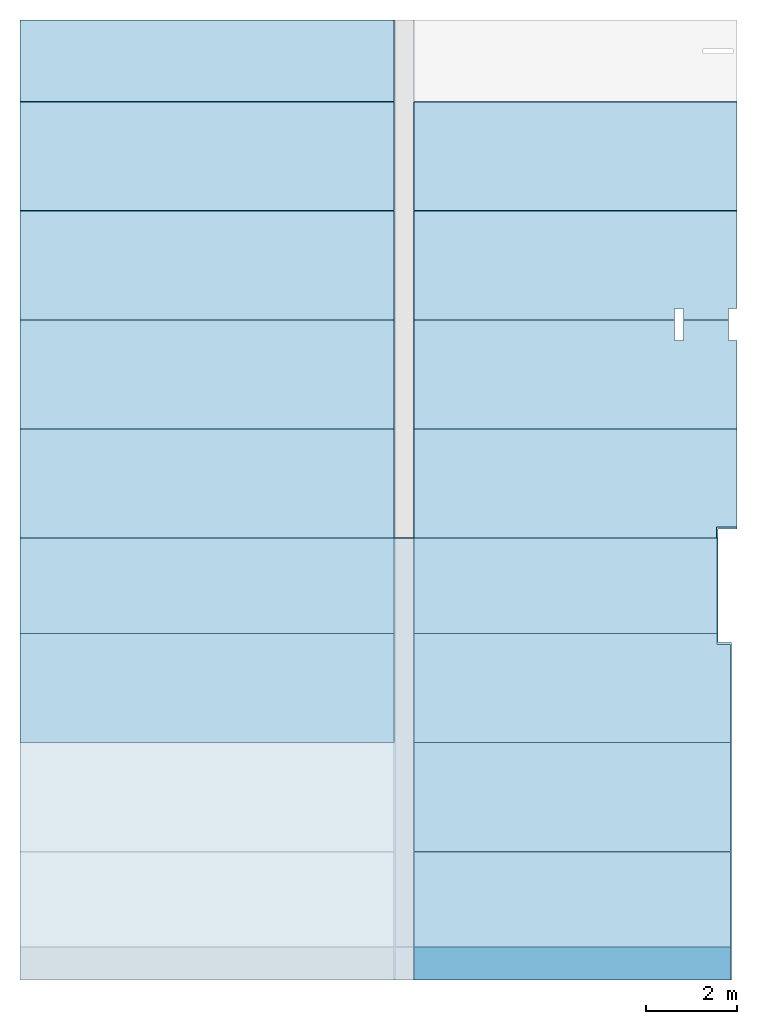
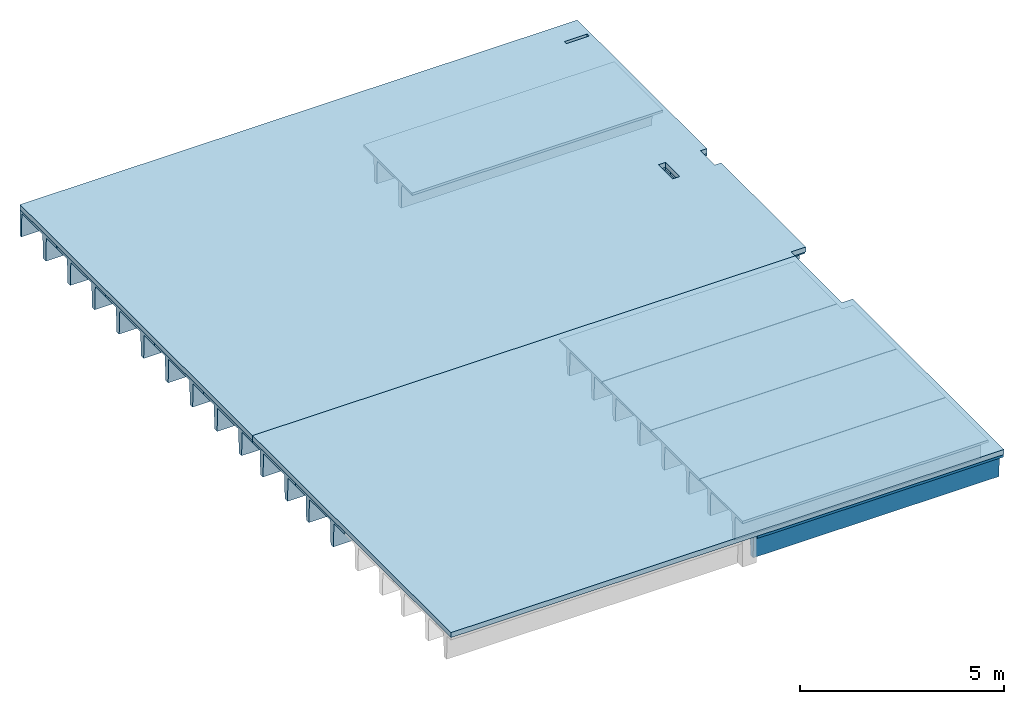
# One storey, part 3 of 4: 19 slabs.
"""IFC2X3 building model written with IfcOpenShell, lengths in millimetres."""

import ifcopenshell
import ifcopenshell.guid

model = None  # the IFC model being written
_history = None  # IfcOwnerHistory: only IFC2X3 demands one
_inside = {}  # id of a spatial element -> (the spatial element, [elements in it])
_under = {}  # id of a project, library or spatial element -> (it, [spatial elements below it])
_declared = {}  # id of a project -> (the project, [libraries it declares])
_typed = {}  # id of a type object -> (the type object, [elements of that type])
_made_of = {}  # id of a material, layer set ... -> (it, [elements and type objects made of it])


def new_model(schema):
    """Start an empty IFC model of exactly this schema.

    Asked for "IFC4X3", IfcOpenShell would pick the latest addendum, in which some entities
    have other attributes; the version numbers below select the first issue.
    IFC2X3 requires an IfcOwnerHistory on every rooted entity: one is made here for all.
    """
    global model, _history
    if schema == "IFC4X3":
        model = ifcopenshell.file(schema_version=(4, 3, 0, 0))
    else:
        model = ifcopenshell.file(schema=schema)
    _inside.clear()
    _under.clear()
    _declared.clear()
    _typed.clear()
    _made_of.clear()
    _history = None
    if model.schema == "IFC2X3":
        org = make("IfcOrganization", Name="unknown")
        user = make(
            "IfcPersonAndOrganization",
            ThePerson=make("IfcPerson", FamilyName="unknown"),
            TheOrganization=org,
        )
        app = make(
            "IfcApplication",
            ApplicationDeveloper=org,
            Version="unknown",
            ApplicationFullName="unknown",
            ApplicationIdentifier="unknown",
        )
        _history = make(
            "IfcOwnerHistory",
            OwningUser=user,
            OwningApplication=app,
            ChangeAction="ADDED",
            CreationDate=0,
        )
    return model


def make(cls, **values):
    """One entity of the class cls with the attributes given. An attribute that is None is left unset."""
    return model.create_entity(
        cls, **{name: value for name, value in values.items() if value is not None}
    )


def entity(cls, *values):
    """Any entity or typed value of the class cls, its attributes in the order of the schema. None: left unset."""
    e = model.create_entity(cls)
    for i, value in enumerate(values):
        if value is not None:
            e[i] = value
    return e


def rooted(cls, **values):
    """An entity with a GlobalId (a new one), such as an element, a storey or a relation."""
    return make(cls, GlobalId=ifcopenshell.guid.new(), OwnerHistory=_history, **values)


def si_unit(unit_type, name, prefix=None):
    """IfcSIUnit, for example si_unit("LENGTHUNIT", "METRE", prefix="MILLI")."""
    return make("IfcSIUnit", UnitType=unit_type, Prefix=prefix, Name=name)


def converted_unit(unit_type, name, factor, base, dimensions=None, offset=None):
    """IfcConversionBasedUnit, such as the inch: factor (a typed value) times the base unit."""
    return make(
        "IfcConversionBasedUnit"
        if offset is None
        else "IfcConversionBasedUnitWithOffset",
        ConversionOffset=offset,
        Dimensions=None
        if dimensions is None
        else entity("IfcDimensionalExponents", *dimensions),
        UnitType=unit_type,
        Name=name,
        ConversionFactor=make(
            "IfcMeasureWithUnit", ValueComponent=factor, UnitComponent=base
        ),
    )


def derived_unit(unit_type, elements):
    """IfcDerivedUnit: a product of units, each with its exponent."""
    return make(
        "IfcDerivedUnit",
        Elements=[
            make("IfcDerivedUnitElement", Unit=unit, Exponent=power)
            for unit, power in elements
        ],
        UnitType=unit_type,
    )


def assignment(units):
    """IfcUnitAssignment: the units of a project."""
    return None if units is None else make("IfcUnitAssignment", Units=units)


def point(xyz):
    """IfcCartesianPoint."""
    return None if xyz is None else make("IfcCartesianPoint", Coordinates=xyz)


def direction(xyz):
    """IfcDirection."""
    return None if xyz is None else make("IfcDirection", DirectionRatios=xyz)


def frame(location, z_axis=None, x_axis=None):
    """IfcAxis2Placement3D, a coordinate frame: its origin and axes. An axis left out is left unset."""
    return make(
        "IfcAxis2Placement3D",
        Location=point(location),
        Axis=direction(z_axis),
        RefDirection=direction(x_axis),
    )


def origin_with_axes():
    """The frame at (0, 0, 0) with the z axis (0, 0, 1) and the x axis (1, 0, 0) written out."""
    return frame((0.0, 0.0, 0.0), z_axis=(0.0, 0.0, 1.0), x_axis=(1.0, 0.0, 0.0))


def place(relative_to, where):
    """IfcLocalPlacement: puts the frame where relative to a parent placement (None: the world)."""
    return make(
        "IfcLocalPlacement", PlacementRelTo=relative_to, RelativePlacement=where
    )


def context(
    kind, dimensions, precision=None, world=None, true_north=None, identifier=None
):
    """IfcGeometricRepresentationContext, for example the 3D "Model" context."""
    return make(
        "IfcGeometricRepresentationContext",
        ContextIdentifier=identifier,
        ContextType=kind,
        CoordinateSpaceDimension=dimensions,
        Precision=precision,
        WorldCoordinateSystem=world,
        TrueNorth=true_north,
    )


def subcontext(parent, identifier, kind, view, scale=None):
    """IfcGeometricRepresentationSubContext, for example "Body" below "Model"."""
    return make(
        "IfcGeometricRepresentationSubContext",
        ContextIdentifier=identifier,
        ContextType=kind,
        ParentContext=parent,
        TargetScale=scale,
        TargetView=view,
    )


def project(units=None, contexts=None):
    """IfcProject with its units and contexts."""
    return rooted(
        "IfcProject",
        Name="project",
        RepresentationContexts=contexts,
        UnitsInContext=assignment(units),
    )


def spatial(cls, under=None, at=None, **own):
    """A site, building, storey or space (cls), placed at a placement, below another one or the project."""
    s = rooted(cls, ObjectPlacement=at, **own)
    if under is not None:
        _under.setdefault(under.id(), (under, []))[1].append(s)
    return s


def faces_of(points, faces, orient=None, outer=None):
    """IfcFace entities. A face is a list of loops; a loop is a list of indices into points, from 0.

    orient and outer hold one flag for each loop. By default every Orientation is true, the
    first loop of a face is its IfcFaceOuterBound and the others are IfcFaceBound.
    """
    made = []
    for i, loops in enumerate(faces):
        bounds = []
        for j, loop in enumerate(loops):
            is_outer = j == 0 if outer is None else outer[i][j]
            bounds.append(
                make(
                    "IfcFaceOuterBound" if is_outer else "IfcFaceBound",
                    Bound=make("IfcPolyLoop", Polygon=[points[k] for k in loop]),
                    Orientation=True if orient is None else orient[i][j],
                )
            )
        made.append(make("IfcFace", Bounds=bounds))
    return made


def faceted_brep(points, faces, orient=None, outer=None, voids=None):
    """IfcFacetedBrep: a solid bounded by flat faces; with voids (closed shells), ...WithVoids."""
    shared = [point(p) for p in points]
    hull = make("IfcClosedShell", CfsFaces=faces_of(shared, faces, orient, outer))
    if voids is None:
        return make("IfcFacetedBrep", Outer=hull)
    return make(
        "IfcFacetedBrepWithVoids",
        Outer=hull,
        Voids=[
            make(cls, CfsFaces=faces_of(shared, fs, o, b)) for cls, fs, o, b in voids
        ],
    )


def shape(context_of_items, identifier, shape_type, items):
    """IfcShapeRepresentation: the items that make up one representation, for example the "Body"."""
    return make(
        "IfcShapeRepresentation",
        ContextOfItems=context_of_items,
        RepresentationIdentifier=identifier,
        RepresentationType=shape_type,
        Items=items,
    )


def material(Name=None, Category=None):
    """IfcMaterial."""
    return make("IfcMaterial", Name=Name, Category=Category)


def made_of(thing, what):
    """Note that an element or type object is made of a material, layer set ...; save() writes the relation."""
    if what is not None:
        _made_of.setdefault(what.id(), (what, []))[1].append(thing)
    return thing


def type_object(cls, material=None, **own):
    """A type object (cls), such as IfcWallType, which elements share."""
    return made_of(rooted(cls, **own), material)


def element(
    cls,
    number,
    at=None,
    inside=None,
    cuts=None,
    type_object=None,
    material=None,
    context=None,
    identifier="Body",
    shape_type=None,
    held_by="IfcProductDefinitionShape",
    body=None,
    shapes=None,
    **own,
):
    """One element of the class cls, such as IfcWall. Its Tag is "e" and its number.

    at: its placement. inside: the storey or other place that contains it. cuts: it is an
    opening in that element (IfcRelVoidsElement). A single representation is given by context,
    identifier, shape_type and body (its items); several are given by shapes. held_by: the class
    of the entity that holds the representations. save() writes the other relations.
    """
    e = rooted(cls, Tag="e%d" % number, ObjectPlacement=at, **own)
    if body is not None:
        shapes = [shape(context, identifier, shape_type, body)]
    if shapes is not None:
        e.Representation = make(held_by, Representations=shapes)
    if inside is not None:
        _inside.setdefault(inside.id(), (inside, []))[1].append(e)
    if cuts is not None:
        rooted(
            "IfcRelVoidsElement", RelatingBuildingElement=cuts, RelatedOpeningElement=e
        )
    if type_object is not None:
        _typed.setdefault(type_object.id(), (type_object, []))[1].append(e)
    return made_of(e, material)


def aggregate(whole, parts):
    """IfcRelAggregates: a whole, such as a stair, and the parts it consists of."""
    return rooted("IfcRelAggregates", RelatingObject=whole, RelatedObjects=parts)


def save(model, path):
    """Write the relations noted so far, then the file.

    IfcRelAggregates (storeys below a building ...), IfcRelContainedInSpatialStructure (elements
    in a storey), IfcRelDefinesByType, IfcRelAssociatesMaterial and IfcRelDeclares: one each for
    every whole, place, type object, material and project.
    """
    for whole, parts in _under.values():
        aggregate(whole, parts)
    for where, things in _inside.values():
        rooted(
            "IfcRelContainedInSpatialStructure",
            RelatedElements=things,
            RelatingStructure=where,
        )
    for kind, things in _typed.values():
        rooted("IfcRelDefinesByType", RelatedObjects=things, RelatingType=kind)
    for what, things in _made_of.values():
        rooted("IfcRelAssociatesMaterial", RelatedObjects=things, RelatingMaterial=what)
    for by, libraries in _declared.values():
        rooted("IfcRelDeclares", RelatingContext=by, RelatedDefinitions=libraries)
    model.write(path)


model = new_model("IFC2X3")

# Units and contexts
model_context = context("Model", 3, precision=0.01, world=frame((0.0, 4.29681676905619e-09, 0.0)), true_north=direction((4.01073788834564e-13, 1.0)))
plan_context = context("Plan", 3, precision=0.01, world=frame((0.0, 4.29681676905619e-09, 0.0)), true_north=direction((4.01073788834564e-13, 1.0)))
body_context = subcontext(model_context, "Body", "Model", "MODEL_VIEW")
ifc_project = project(units=[converted_unit("PLANEANGLEUNIT", "DEGREE", entity("IfcPositiveLengthMeasure", 0.0174532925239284), si_unit("PLANEANGLEUNIT", "RADIAN"), dimensions=[0, 0, 0, 0, 0, 0, 0]), si_unit("AREAUNIT", "SQUARE_METRE"), si_unit("LENGTHUNIT", "METRE", prefix="MILLI"), si_unit("MASSUNIT", "GRAM", prefix="KILO"), si_unit("POWERUNIT", "WATT"), si_unit("PRESSUREUNIT", "PASCAL"), si_unit("FORCEUNIT", "NEWTON", prefix="KILO"), si_unit("ELECTRICVOLTAGEUNIT", "VOLT"), si_unit("ELECTRICCURRENTUNIT", "AMPERE"), si_unit("THERMODYNAMICTEMPERATUREUNIT", "DEGREE_CELSIUS"), si_unit("TIMEUNIT", "SECOND"), si_unit("VOLUMEUNIT", "CUBIC_METRE"), derived_unit("LINEARVELOCITYUNIT", [(si_unit("LENGTHUNIT", "METRE"), 1), (si_unit("TIMEUNIT", "SECOND"), -1)]), derived_unit("VOLUMETRICFLOWRATEUNIT", [(si_unit("VOLUMEUNIT", "CUBIC_METRE"), 1), (si_unit("TIMEUNIT", "SECOND"), -1)]), derived_unit("THERMALTRANSMITTANCEUNIT", [(si_unit("POWERUNIT", "WATT"), 1), (si_unit("THERMODYNAMICTEMPERATUREUNIT", "KELVIN"), -1), (si_unit("AREAUNIT", "SQUARE_METRE"), -1)]), derived_unit("SOUNDPRESSUREUNIT", [(si_unit("PRESSUREUNIT", "PASCAL"), 1)])], contexts=[model_context, plan_context])

# Site, building, storey
site_placement = place(None, frame((0.0, -4.29681676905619e-09, 0.0), z_axis=(0.0, 0.0, 1.0), x_axis=(1.0, 0.0, 0.0)))
site = spatial("IfcSite", under=ifc_project, at=site_placement, Name="Gardermoen", CompositionType="ELEMENT")
building_placement = place(site_placement, frame((0.0, 4.29681676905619e-09, 0.0), z_axis=(0.0, 0.0, 1.0), x_axis=(1.0, 0.0, 0.0)))
building = spatial("IfcBuilding", under=site, at=building_placement, Name="TS", CompositionType="ELEMENT")
storey_placement = place(building_placement, origin_with_axes())
storey = spatial("IfcBuildingStorey", under=building, at=storey_placement, Name="F", CompositionType="ELEMENT", Elevation=0.0)

# Slabs
ifc_material = material(Name="CONCRETE/C45/55")
slab_type_1 = type_object("IfcSlabType", Name="TT800*2394-125-70-1200-0.04-0-0", PredefinedType="NOTDEFINED")
slab_1_placement = place(storey_placement, frame((536180.000234, 444799.995625, 210280.0), z_axis=(0.0, 0.0, 1.0), x_axis=(-0.999999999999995, -9.99999902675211e-08, 0.0)))
element("IfcSlab", 1, at=slab_1_placement, inside=storey, type_object=slab_type_1, material=ifc_material, Name="DT", ObjectType="TT800*2394-125-70-1200-0.04-0-0", PredefinedType="FLOOR", context=body_context, shape_type="Brep", body=[
    faceted_brep([(0.0, -1197.0, 400.0), (0.0, -1197.0, 330.0), (6960.0, -1197.0, 330.0), (6960.0, -1197.0, 400.0), (0.0, -691.700000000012, 330.0), (6960.0, -691.700000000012, 330.0), (0.0, -662.5, -400.0), (6960.0, -662.5, -400.0), (0.0, -537.5, -400.0), (6960.0, -537.5, -400.0), (0.0, -508.299999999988, 330.0), (6960.0, -508.299999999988, 330.0), (0.0, 508.299999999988, 330.0), (6960.0, 508.299999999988, 330.0), (0.0, 537.5, -400.0), (6960.0, 537.5, -400.0), (0.0, 662.5, -400.0), (6960.0, 662.5, -400.0), (0.0, 691.700000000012, 330.0), (6960.0, 691.700000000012, 330.0), (0.0, 1197.0, 330.0), (6960.0, 1197.0, 330.0), (0.0, 1197.0, 400.0), (6960.0, 1197.0, 400.0)], [[[0, 1, 2, 3]], [[1, 4, 5, 2]], [[4, 6, 7, 5]], [[6, 8, 9, 7]], [[8, 10, 11, 9]], [[10, 12, 13, 11]], [[12, 14, 15, 13]], [[14, 16, 17, 15]], [[16, 18, 19, 17]], [[18, 20, 21, 19]], [[20, 22, 23, 21]], [[22, 0, 3, 23]], [[5, 7, 9, 11, 13, 15, 17, 19, 21, 23, 3, 2]], [[22, 20, 18, 16, 14, 12, 10, 8, 6, 4, 1, 0]]]),
])
slab_2_placement = place(storey_placement, frame((536180.000234, 447199.995625, 210280.0), z_axis=(0.0, 0.0, 1.0), x_axis=(-0.999999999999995, -9.99999902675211e-08, 0.0)))
element("IfcSlab", 2, at=slab_2_placement, inside=storey, type_object=slab_type_1, material=ifc_material, Name="DT", ObjectType="TT800*2394-125-70-1200-0.04-0-0", PredefinedType="FLOOR", context=body_context, shape_type="Brep", body=[
    faceted_brep([(0.0, -956.998676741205, 400.0), (0.0, -956.998676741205, 330.0), (299.993408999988, -956.998676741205, 330.0), (299.993408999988, -956.998676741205, 400.0), (299.993408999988, -1197.0, 400.0), (299.993408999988, -1197.0, 330.0), (0.0, -691.700000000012, 330.0), (0.0, -662.5, -400.0), (6960.0, -662.5, -400.0), (6960.0, -691.700000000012, 330.0), (0.0, -537.5, -400.0), (6960.0, -537.5, -400.0), (0.0, -508.299999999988, 330.0), (6960.0, -508.299999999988, 330.0), (0.0, 508.299999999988, 330.0), (6960.0, 508.299999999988, 330.0), (0.0, 537.5, -400.0), (6960.0, 537.5, -400.0), (0.0, 662.5, -400.0), (6960.0, 662.5, -400.0), (0.0, 691.700000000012, 330.0), (6960.0, 691.700000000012, 330.0), (0.0, 1197.0, 330.0), (6960.0, 1197.0, 330.0), (0.0, 1197.0, 400.0), (6960.0, 1197.0, 400.0), (6960.0, -1197.0, 400.0), (6960.0, -1197.0, 330.0)], [[[0, 1, 2, 3]], [[4, 3, 2, 5]], [[6, 7, 8, 9]], [[7, 10, 11, 8]], [[10, 12, 13, 11]], [[12, 14, 15, 13]], [[14, 16, 17, 15]], [[16, 18, 19, 17]], [[18, 20, 21, 19]], [[20, 22, 23, 21]], [[22, 24, 25, 23]], [[9, 8, 11, 13, 15, 17, 19, 21, 23, 25, 26, 27]], [[27, 26, 4, 5]], [[1, 6, 9, 27, 5, 2]], [[24, 22, 20, 18, 16, 14, 12, 10, 7, 6, 1, 0]], [[26, 25, 24, 0, 3, 4]]]),
])
slab_3_placement = place(storey_placement, frame((520219.999766, 461299.995625, 210280.0), z_axis=(0.0, 0.0, 1.0), x_axis=(1.0, 0.0, 0.0)))
element("IfcSlab", 3, at=slab_3_placement, inside=storey, type_object=slab_type_1, Name="DT", ObjectType="TT800*2394-125-70-1200-0.04-0-0", PredefinedType="FLOOR", context=body_context, shape_type="Brep", body=[
    faceted_brep([(324.987734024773, -1197.0, 330.0), (324.987734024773, -1197.0, 400.0), (8560.0, -1197.0, 400.0), (8560.0, -1197.0, 330.0), (324.987734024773, -691.700000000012, 330.0), (8560.0, -691.700000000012, 330.0), (8560.0, -663.3, -380.0), (324.987734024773, -663.300000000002, -380.0), (324.987734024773, -508.299999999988, 330.0), (324.987734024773, -536.699999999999, -380.0), (8560.0, -536.7, -380.0), (8560.0, -508.299999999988, 330.0), (324.987734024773, 508.299999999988, 330.0), (8560.0, 508.299999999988, 330.0), (8560.0, 536.7, -380.0), (324.987734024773, 536.699999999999, -380.0), (324.987734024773, 600.004374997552, 400.0), (8560.0, 600.004374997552, 400.0), (8560.0, 600.004374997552, -380.0), (324.987734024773, 600.004374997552, -380.0)], [[[0, 1, 2, 3]], [[4, 0, 3, 5]], [[6, 7, 4, 5]], [[8, 9, 10, 11]], [[12, 8, 11, 13]], [[14, 15, 12, 13]], [[1, 16, 17, 2]], [[17, 18, 14, 13, 11, 10, 6, 5, 3, 2]], [[18, 17, 16, 19]], [[9, 8, 12, 15, 19, 16, 1, 0, 4, 7]], [[7, 6, 10, 9]], [[15, 14, 18, 19]]], orient=[[False], [False], [False], [False], [False], [False], [False], [False], [False], [False], [False], [False]]),
])
for number, where, z_axis, x_axis, name in (
    (4, (520219.999766, 458899.995625, 210280.0), (0.0, 0.0, 1.0), (1.0, 0.0, 0.0), "DT"),
    (5, (520219.999766, 456499.995625, 210280.0), (0.0, 0.0, 1.0), (1.0, 0.0, 0.0), "DT"),
):
    element("IfcSlab", number, at=place(storey_placement, frame(where, z_axis=z_axis, x_axis=x_axis)), inside=storey, type_object=slab_type_1, Name=name, ObjectType="TT800*2394-125-70-1200-0.04-0-0", PredefinedType="FLOOR", context=body_context, shape_type="Brep", body=[
        faceted_brep([(324.987734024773, -1197.0, 330.0), (324.987734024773, -1197.0, 400.0), (8560.0, -1197.0, 400.0), (8560.0, -1197.0, 330.0), (324.987734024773, -691.700000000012, 330.0), (8560.0, -691.700000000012, 330.0), (8560.0, -663.3, -380.0), (324.987734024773, -663.3, -380.0), (324.987734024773, -508.299999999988, 330.0), (324.987734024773, -536.700000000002, -380.0), (8560.0, -536.7, -380.0), (8560.0, -508.299999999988, 330.0), (324.987734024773, 508.299999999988, 330.0), (8560.0, 508.299999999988, 330.0), (8560.0, 536.7, -380.0), (324.987734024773, 536.699999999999, -380.0), (324.987734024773, 691.700000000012, 330.0), (324.987734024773, 663.300000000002, -380.0), (8560.0, 663.3, -380.0), (8560.0, 691.700000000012, 330.0), (324.987734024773, 1197.0, 330.0), (8560.0, 1197.0, 330.0), (324.987734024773, 1197.0, 400.0), (8560.0, 1197.0, 400.0)], [[[0, 1, 2, 3]], [[4, 0, 3, 5]], [[6, 7, 4, 5]], [[8, 9, 10, 11]], [[12, 8, 11, 13]], [[14, 15, 12, 13]], [[16, 17, 18, 19]], [[20, 16, 19, 21]], [[22, 20, 21, 23]], [[1, 22, 23, 2]], [[18, 14, 13, 11, 10, 6, 5, 3, 2, 23, 21, 19]], [[9, 8, 12, 15, 17, 16, 20, 22, 1, 0, 4, 7]], [[7, 6, 10, 9]], [[15, 14, 18, 17]]], orient=[[False], [False], [False], [False], [False], [False], [False], [False], [False], [False], [False], [False], [False], [False]]),
    ])
slab_4_placement = place(storey_placement, frame((529219.999766, 456499.995625, 210280.0), z_axis=(0.0, 0.0, 1.0), x_axis=(1.0, 0.0, 0.0)))
element("IfcSlab", 6, at=slab_4_placement, inside=storey, type_object=slab_type_1, Name="DT", ObjectType="TT800*2394-125-70-1200-0.04-0-0", PredefinedType="FLOOR", context=body_context, shape_type="Brep", body=[
    faceted_brep([(5730.00262639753, -949.9990234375, 400.0), (5730.00262639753, -949.9990234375, 330.0), (5730.00262639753, -1197.0, 330.0), (5730.00262639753, -1197.0, 400.0), (5930.0026721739, -949.9990234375, 400.0), (5930.0026721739, -949.9990234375, 330.0), (5930.0026721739, -1197.0, 330.0), (5930.0026721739, -1197.0, 400.0), (7100.50023400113, 691.700000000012, 330.0), (7100.50023400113, 1197.0, 330.0), (0.0, 1197.0, 330.0), (0.0, 691.700000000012, 330.0), (0.0, 663.3, -380.0), (7100.50023400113, 663.300000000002, -380.0), (7100.50023400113, 508.299999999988, 330.0), (7100.50023400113, 536.700000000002, -380.0), (0.0, 536.7, -380.0), (0.0, 508.299999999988, 330.0), (7100.50023400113, -508.299999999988, 330.0), (0.0, -508.299999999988, 330.0), (0.0, -536.7, -380.0), (7100.50023400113, -536.7, -380.0), (7100.50023400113, -691.700000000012, 330.0), (7100.50023400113, -663.3, -380.0), (0.0, -663.3, -380.0), (0.0, -691.700000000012, 330.0), (0.0, 1197.0, 400.0), (0.0, -1197.0, 400.0), (0.0, -1197.0, 330.0), (7100.50023400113, 1197.0, 400.0), (7100.50023400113, -949.9990234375, 400.0), (7100.50023400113, -949.9990234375, 330.0), (6920.00268361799, -949.9990234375, 330.0), (6920.00268361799, -949.9990234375, 400.0), (6920.00268361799, -1197.0, 330.0), (6920.00268361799, -1197.0, 400.0)], [[[0, 1, 2, 3]], [[4, 5, 1, 0]], [[6, 5, 4, 7]], [[8, 9, 10, 11]], [[12, 13, 8, 11]], [[14, 15, 16, 17]], [[18, 14, 17, 19]], [[20, 21, 18, 19]], [[22, 23, 24, 25]], [[24, 20, 19, 17, 16, 12, 11, 10, 26, 27, 28, 25]], [[9, 29, 26, 10]], [[30, 31, 32, 33]], [[33, 32, 34, 35]], [[6, 7, 35, 34]], [[31, 22, 25, 28, 2, 1, 5, 6, 34, 32]], [[3, 2, 28, 27]], [[29, 30, 33, 35, 7, 4, 0, 3, 27, 26]], [[15, 14, 18, 21, 23, 22, 31, 30, 29, 9, 8, 13]], [[13, 12, 16, 15]], [[21, 20, 24, 23]]], orient=[[False], [False], [False], [False], [False], [False], [False], [False], [False], [False], [False], [False], [False], [False], [False], [False], [False], [False], [False], [False]]),
])
slab_5_placement = place(storey_placement, frame((529219.999766, 458899.995625, 210280.0), z_axis=(0.0, 0.0, 1.0), x_axis=(1.0, 0.0, 0.0)))
element("IfcSlab", 7, at=slab_5_placement, inside=storey, type_object=slab_type_1, Name="DT", ObjectType="TT800*2394-125-70-1200-0.04-0-0", PredefinedType="FLOOR", context=body_context, shape_type="Brep", body=[
    faceted_brep([(7100.50023400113, -1197.0, 400.0), (7100.50023400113, -1197.0, 330.0), (0.0, -1197.0, 330.0), (0.0, -1197.0, 400.0), (7100.50023400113, -691.700000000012, 330.0), (0.0, -691.700000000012, 330.0), (7100.50023400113, -663.3, -380.0), (0.0, -663.3, -380.0), (0.0, -536.7, -380.0), (7100.50023400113, -536.699999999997, -380.0), (7100.50023400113, -508.299999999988, 330.0), (0.0, -508.299999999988, 330.0), (7100.50023400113, 508.299999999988, 330.0), (0.0, 508.299999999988, 330.0), (7100.50023400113, 536.699999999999, -380.0), (0.0, 536.7, -380.0), (0.0, 663.3, -380.0), (7100.50023400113, 663.300000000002, -380.0), (7100.50023400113, 691.700000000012, 330.0), (0.0, 691.700000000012, 330.0), (7100.50023400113, 1197.0, 330.0), (0.0, 1197.0, 330.0), (7100.50023400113, 1197.0, 400.0), (0.0, 1197.0, 400.0)], [[[0, 1, 2, 3]], [[1, 4, 5, 2]], [[4, 6, 7, 5]], [[8, 9, 10, 11]], [[10, 12, 13, 11]], [[12, 14, 15, 13]], [[16, 17, 18, 19]], [[18, 20, 21, 19]], [[20, 22, 23, 21]], [[22, 0, 3, 23]], [[7, 8, 11, 13, 15, 16, 19, 21, 23, 3, 2, 5]], [[14, 12, 10, 9, 6, 4, 1, 0, 22, 20, 18, 17]], [[9, 8, 7, 6]], [[17, 16, 15, 14]]], orient=[[False], [False], [False], [False], [False], [False], [False], [False], [False], [False], [False], [False], [False], [False]]),
])
for number, where, z_axis, x_axis, name in (
    (8, (520219.999766, 451699.995625, 210280.0), (0.0, 0.0, 1.0), (1.0, 0.0, 0.0), "DT"),
    (9, (520219.999766, 454099.995625, 210280.0), (0.0, 0.0, 1.0), (1.0, 0.0, 0.0), "DT"),
):
    element("IfcSlab", number, at=place(storey_placement, frame(where, z_axis=z_axis, x_axis=x_axis)), inside=storey, type_object=slab_type_1, Name=name, ObjectType="TT800*2394-125-70-1200-0.04-0-0", PredefinedType="FLOOR", context=body_context, shape_type="Brep", body=[
        faceted_brep([(324.987734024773, -1197.0, 330.0), (324.987734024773, -1197.0, 400.0), (8560.0, -1197.0, 400.0), (8560.0, -1197.0, 330.0), (324.987734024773, -691.700000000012, 330.0), (8560.0, -691.700000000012, 330.0), (8560.0, -663.3, -380.0), (324.987734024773, -663.3, -380.0), (324.987734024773, -508.299999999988, 330.0), (324.987734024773, -536.700000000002, -380.0), (8560.0, -536.7, -380.0), (8560.0, -508.299999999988, 330.0), (324.987734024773, 508.299999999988, 330.0), (8560.0, 508.299999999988, 330.0), (8560.0, 536.7, -380.0), (324.987734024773, 536.699999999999, -380.0), (324.987734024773, 691.700000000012, 330.0), (324.987734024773, 663.300000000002, -380.0), (8560.0, 663.3, -380.0), (8560.0, 691.700000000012, 330.0), (324.987734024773, 1197.0, 330.0), (8560.0, 1197.0, 330.0), (324.987734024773, 1197.0, 400.0), (8560.0, 1197.0, 400.0)], [[[0, 1, 2, 3]], [[4, 0, 3, 5]], [[6, 7, 4, 5]], [[8, 9, 10, 11]], [[12, 8, 11, 13]], [[14, 15, 12, 13]], [[16, 17, 18, 19]], [[20, 16, 19, 21]], [[22, 20, 21, 23]], [[1, 22, 23, 2]], [[18, 14, 13, 11, 10, 6, 5, 3, 2, 23, 21, 19]], [[9, 8, 12, 15, 17, 16, 20, 22, 1, 0, 4, 7]], [[7, 6, 10, 9]], [[15, 14, 18, 17]]], orient=[[False], [False], [False], [False], [False], [False], [False], [False], [False], [False], [False], [False], [False], [False]]),
    ])
slab_6_placement = place(storey_placement, frame((529219.999766, 451699.995625, 210280.0), z_axis=(0.0, 0.0, 1.0), x_axis=(1.0, 0.0, 0.0)))
element("IfcSlab", 10, at=slab_6_placement, inside=storey, type_object=slab_type_1, Name="DT", ObjectType="TT800*2394-125-70-1200-0.04-0-0", PredefinedType="FLOOR", context=body_context, shape_type="Brep", body=[
    faceted_brep([(6650.0, -957.0, 400.0), (6650.0, -957.0, 330.0), (6650.0, -1197.0, 330.0), (6650.0, -1197.0, 400.0), (7100.50023400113, -957.0, 400.0), (7100.50023400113, -957.0, 330.0), (7100.50023400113, 691.700000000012, 330.0), (7100.50023400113, 1197.0, 330.0), (0.0, 1197.0, 330.0), (0.0, 691.700000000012, 330.0), (0.0, 663.3, -380.0), (7100.50023400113, 663.299999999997, -380.0), (7100.50023400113, 508.299999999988, 330.0), (7100.50023400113, 536.700000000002, -380.0), (0.0, 536.7, -380.0), (0.0, 508.299999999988, 330.0), (7100.50023400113, -508.299999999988, 330.0), (0.0, -508.299999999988, 330.0), (0.0, -536.7, -380.0), (7100.50023400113, -536.700000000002, -380.0), (7100.50023400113, -691.700000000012, 330.0), (7100.50023400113, -663.300000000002, -380.0), (0.0, -663.3, -380.0), (0.0, -691.700000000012, 330.0), (0.0, 1197.0, 400.0), (0.0, -1197.0, 400.0), (0.0, -1197.0, 330.0), (7100.50023400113, 1197.0, 400.0)], [[[0, 1, 2, 3]], [[4, 5, 1, 0]], [[6, 7, 8, 9]], [[10, 11, 6, 9]], [[12, 13, 14, 15]], [[16, 12, 15, 17]], [[18, 19, 16, 17]], [[20, 21, 22, 23]], [[22, 18, 17, 15, 14, 10, 9, 8, 24, 25, 26, 23]], [[7, 27, 24, 8]], [[5, 20, 23, 26, 2, 1]], [[3, 2, 26, 25]], [[27, 4, 0, 3, 25, 24]], [[13, 12, 16, 19, 21, 20, 5, 4, 27, 7, 6, 11]], [[11, 10, 14, 13]], [[19, 18, 22, 21]]], orient=[[False], [False], [False], [False], [False], [False], [False], [False], [False], [False], [False], [False], [False], [False], [False], [False]]),
])
slab_7_placement = place(storey_placement, frame((529219.999766, 454099.995625, 210280.0), z_axis=(0.0, 0.0, 1.0), x_axis=(1.0, 0.0, 0.0)))
element("IfcSlab", 11, at=slab_7_placement, inside=storey, type_object=slab_type_1, Name="DT", ObjectType="TT800*2394-125-70-1200-0.04-0-0", PredefinedType="FLOOR", context=body_context, shape_type="Brep", body=[
    faceted_brep([(6920.00268361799, 1197.0, 400.0), (6920.00268361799, 1197.0, 330.0), (6920.00268361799, 750.000213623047, 330.0), (6920.00268361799, 750.000213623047, 400.0), (7100.50023400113, 750.000213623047, 330.0), (7100.50023400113, 750.000213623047, 400.0), (7100.50023400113, -1197.0, 330.0), (7100.50023400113, -691.700000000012, 330.0), (0.0, -691.700000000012, 330.0), (0.0, -1197.0, 330.0), (7100.50023400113, -663.299999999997, -380.0), (0.0, -663.3, -380.0), (0.0, -536.7, -380.0), (7100.50023400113, -536.700000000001, -380.0), (7100.50023400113, -508.299999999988, 330.0), (0.0, -508.299999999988, 330.0), (7100.50023400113, 508.299999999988, 330.0), (0.0, 508.299999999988, 330.0), (7100.50023400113, 536.700000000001, -380.0), (0.0, 536.7, -380.0), (0.0, 663.3, -380.0), (7100.50023400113, 663.299999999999, -380.0), (7100.50023400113, 691.700000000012, 330.0), (0.0, 691.700000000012, 330.0), (7100.50023400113, -1197.0, 400.0), (0.0, -1197.0, 400.0), (0.0, 1197.0, 330.0), (0.0, 1197.0, 400.0), (5730.00262639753, 1197.0, 330.0), (5730.00262639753, 1197.0, 400.0), (5730.00262639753, 750.000213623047, 330.0), (5730.00262639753, 750.000213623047, 400.0), (5930.0026721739, 750.000213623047, 330.0), (5930.0026721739, 750.000213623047, 400.0), (5930.0026721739, 1197.0, 330.0), (5930.0026721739, 1197.0, 400.0)], [[[0, 1, 2, 3]], [[4, 5, 3, 2]], [[6, 7, 8, 9]], [[7, 10, 11, 8]], [[12, 13, 14, 15]], [[14, 16, 17, 15]], [[16, 18, 19, 17]], [[20, 21, 22, 23]], [[24, 6, 9, 25]], [[11, 12, 15, 17, 19, 20, 23, 26, 27, 25, 9, 8]], [[28, 29, 27, 26]], [[29, 28, 30, 31]], [[31, 30, 32, 33]], [[33, 32, 34, 35]], [[1, 0, 35, 34]], [[22, 4, 2, 1, 34, 32, 30, 28, 26, 23]], [[5, 24, 25, 27, 29, 31, 33, 35, 0, 3]], [[18, 16, 14, 13, 10, 7, 6, 24, 5, 4, 22, 21]], [[13, 12, 11, 10]], [[21, 20, 19, 18]]], orient=[[False], [False], [False], [False], [False], [False], [False], [False], [False], [False], [False], [False], [False], [False], [False], [False], [False], [False], [False], [False]]),
])
slab_8_placement = place(storey_placement, frame((520219.999766, 447199.995625, 210280.0), z_axis=(0.0, 0.0, 1.0), x_axis=(1.0, 0.0, 0.0)))
element("IfcSlab", 12, at=slab_8_placement, inside=storey, type_object=slab_type_1, Name="DT", ObjectType="TT800*2394-125-70-1200-0.04-0-0", PredefinedType="FLOOR", context=body_context, shape_type="Brep", body=[
    faceted_brep([(324.987734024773, -1197.0, 330.0), (324.987734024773, -1197.0, 400.0), (8560.0, -1197.0, 400.0), (8560.0, -1197.0, 330.0), (324.987734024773, -691.700000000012, 330.0), (8560.0, -691.700000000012, 330.0), (8560.0, -663.3, -380.0), (324.987734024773, -663.3, -380.0), (324.987734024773, -508.299999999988, 330.0), (324.987734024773, -536.700000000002, -380.0), (8560.0, -536.7, -380.0), (8560.0, -508.299999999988, 330.0), (324.987734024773, 508.299999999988, 330.0), (8560.0, 508.299999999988, 330.0), (8560.0, 536.7, -380.0), (324.987734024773, 536.699999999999, -380.0), (324.987734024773, 691.700000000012, 330.0), (324.987734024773, 663.300000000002, -380.0), (8560.0, 663.3, -380.0), (8560.0, 691.700000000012, 330.0), (324.987734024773, 1197.0, 330.0), (8560.0, 1197.0, 330.0), (324.987734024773, 1197.0, 400.0), (8560.0, 1197.0, 400.0)], [[[0, 1, 2, 3]], [[4, 0, 3, 5]], [[6, 7, 4, 5]], [[8, 9, 10, 11]], [[12, 8, 11, 13]], [[14, 15, 12, 13]], [[16, 17, 18, 19]], [[20, 16, 19, 21]], [[22, 20, 21, 23]], [[1, 22, 23, 2]], [[18, 14, 13, 11, 10, 6, 5, 3, 2, 23, 21, 19]], [[9, 8, 12, 15, 17, 16, 20, 22, 1, 0, 4, 7]], [[7, 6, 10, 9]], [[15, 14, 18, 17]]], orient=[[False], [False], [False], [False], [False], [False], [False], [False], [False], [False], [False], [False], [False], [False]]),
])
slab_type_2 = type_object("IfcSlabType", Name="TT800*2094-125-70-1200-0.04-0-0", PredefinedType="NOTDEFINED")
slab_9_placement = place(storey_placement, frame((536180.000234, 442549.995625, 210280.0), z_axis=(0.0, 0.0, 1.0), x_axis=(-0.999999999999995, -9.99999902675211e-08, 0.0)))
element("IfcSlab", 13, at=slab_9_placement, inside=storey, type_object=slab_type_2, material=ifc_material, Name="DT", ObjectType="TT800*2094-125-70-1200-0.04-0-0", PredefinedType="FLOOR", context=body_context, shape_type="Brep", body=[
    faceted_brep([(0.0, -1047.0, 400.0), (0.0, -1047.0, 330.0), (6960.0, -1047.0, 330.0), (6960.0, -1047.0, 400.0), (0.0, -691.700000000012, 330.0), (6960.0, -691.700000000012, 330.0), (0.0, -662.5, -400.0), (6960.0, -662.5, -400.0), (0.0, -537.5, -400.0), (6960.0, -537.5, -400.0), (0.0, -508.299999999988, 330.0), (6960.0, -508.299999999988, 330.0), (0.0, 508.299999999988, 330.0), (6960.0, 508.299999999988, 330.0), (0.0, 537.5, -400.0), (6960.0, 537.5, -400.0), (0.0, 662.5, -400.0), (6960.0, 662.5, -400.0), (0.0, 691.700000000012, 330.0), (6960.0, 691.700000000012, 330.0), (0.0, 1047.0, 330.0), (6960.0, 1047.0, 330.0), (0.0, 1047.0, 400.0), (6960.0, 1047.0, 400.0)], [[[0, 1, 2, 3]], [[1, 4, 5, 2]], [[4, 6, 7, 5]], [[6, 8, 9, 7]], [[8, 10, 11, 9]], [[10, 12, 13, 11]], [[12, 14, 15, 13]], [[14, 16, 17, 15]], [[16, 18, 19, 17]], [[18, 20, 21, 19]], [[20, 22, 23, 21]], [[22, 0, 3, 23]], [[5, 7, 9, 11, 13, 15, 17, 19, 21, 23, 3, 2]], [[22, 20, 18, 16, 14, 12, 10, 8, 6, 4, 1, 0]]]),
])
slab_10_placement = place(storey_placement, frame((529219.999766, 449449.994317, 210280.0), z_axis=(0.0, 0.0, 1.0), x_axis=(1.0, 0.0, 0.0)))
element("IfcSlab", 14, at=slab_10_placement, inside=storey, type_object=slab_type_2, material=ifc_material, Name="DT", ObjectType="TT800*2094-125-70-1200-0.04-0-0", PredefinedType="FLOOR", context=body_context, shape_type="Brep", body=[
    faceted_brep([(0.0, -1047.0, 400.0), (0.0, -1047.0, 330.0), (6660.00705899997, -1047.0, 330.0), (6660.00705899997, -1047.0, 400.0), (0.0, -691.700000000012, 330.0), (6660.00705899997, -691.700000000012, 330.0), (0.0, -662.5, -400.0), (6660.00705899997, -662.5, -400.0), (0.0, -537.5, -400.0), (6660.00705899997, -537.5, -400.0), (0.0, -508.299999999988, 330.0), (6660.00705899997, -508.299999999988, 330.0), (0.0, 508.299999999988, 330.0), (6660.00705899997, 508.299999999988, 330.0), (0.0, 537.5, -400.0), (6660.00705899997, 537.5, -400.0), (0.0, 662.5, -400.0), (6660.00705899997, 662.5, -400.0), (0.0, 691.700000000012, 330.0), (6660.00705899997, 691.700000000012, 330.0), (0.0, 1047.0, 330.0), (6660.00705899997, 1047.0, 330.0), (0.0, 1047.0, 400.0), (6660.00705899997, 1047.0, 400.0)], [[[0, 1, 2, 3]], [[1, 4, 5, 2]], [[4, 6, 7, 5]], [[6, 8, 9, 7]], [[8, 10, 11, 9]], [[10, 12, 13, 11]], [[12, 14, 15, 13]], [[14, 16, 17, 15]], [[16, 18, 19, 17]], [[18, 20, 21, 19]], [[20, 22, 23, 21]], [[22, 0, 3, 23]], [[5, 7, 9, 11, 13, 15, 17, 19, 21, 23, 3, 2]], [[22, 20, 18, 16, 14, 12, 10, 8, 6, 4, 1, 0]]]),
])
slab_11_placement = place(storey_placement, frame((520219.999766, 449449.994317, 210280.0), z_axis=(0.0, 0.0, 1.0), x_axis=(1.0, 0.0, 0.0)))
element("IfcSlab", 15, at=slab_11_placement, inside=storey, type_object=slab_type_2, Name="DT", ObjectType="TT800*2094-125-70-1200-0.04-0-0", PredefinedType="FLOOR", context=body_context, shape_type="Brep", body=[
    faceted_brep([(324.987734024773, -1047.0, 330.0), (324.987734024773, -1047.0, 400.0), (8560.0, -1047.0, 400.0), (8560.0, -1047.0, 330.0), (324.987734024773, -691.700000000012, 330.0), (8560.0, -691.700000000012, 330.0), (8560.0, -663.3, -380.0), (324.987734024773, -663.299999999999, -380.0), (324.987734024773, -508.299999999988, 330.0), (324.987734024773, -536.700000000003, -380.0), (8560.0, -536.7, -380.0), (8560.0, -508.299999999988, 330.0), (324.987734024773, 508.299999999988, 330.0), (8560.0, 508.299999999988, 330.0), (8560.0, 536.7, -380.0), (324.987734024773, 536.699999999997, -380.0), (324.987734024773, 691.700000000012, 330.0), (324.987734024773, 663.299999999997, -380.0), (8560.0, 663.3, -380.0), (8560.0, 691.700000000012, 330.0), (324.987734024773, 1047.0, 330.0), (8560.0, 1047.0, 330.0), (324.987734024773, 1047.0, 400.0), (8560.0, 1047.0, 400.0)], [[[0, 1, 2, 3]], [[4, 0, 3, 5]], [[6, 7, 4, 5]], [[8, 9, 10, 11]], [[12, 8, 11, 13]], [[14, 15, 12, 13]], [[16, 17, 18, 19]], [[20, 16, 19, 21]], [[22, 20, 21, 23]], [[1, 22, 23, 2]], [[18, 14, 13, 11, 10, 6, 5, 3, 2, 23, 21, 19]], [[9, 8, 12, 15, 17, 16, 20, 22, 1, 0, 4, 7]], [[7, 6, 10, 9]], [[15, 14, 18, 17]]], orient=[[False], [False], [False], [False], [False], [False], [False], [False], [False], [False], [False], [False], [False], [False]]),
])
slab_12_placement = place(storey_placement, frame((536180.000234, 440449.995625, 210280.0), z_axis=(0.0, 0.0, 1.0), x_axis=(-0.999999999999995, -9.99999902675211e-08, 0.0)))
element("IfcSlab", 16, at=slab_12_placement, inside=storey, type_object=slab_type_2, Name="DT", ObjectType="TT800*2094-125-70-1200-0.04-0-0", PredefinedType="FLOOR", context=body_context, shape_type="Brep", body=[
    faceted_brep([(6960.0, -1047.0, 400.0), (6960.0, -1047.0, 330.0), (0.0, -1047.0, 330.0), (0.0, -1047.0, 400.0), (6960.0, -691.700000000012, 330.0), (0.0, -691.700000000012, 330.0), (6960.0, -663.3, -380.0), (0.0, -663.3, -380.0), (0.0, -536.7, -380.0), (6960.0, -536.7, -380.0), (6960.0, -508.299999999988, 330.0), (0.0, -508.299999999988, 330.0), (6960.0, -325.004360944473, 330.0), (0.0, -325.004360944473, 330.0), (0.0, -325.004360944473, 400.0), (6960.0, -325.004360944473, 400.0), (6960.0, -325.005070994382, 400.0), (0.0, -325.00437499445, 400.0), (0.0, -325.00437499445, 330.0), (6960.0, -325.005070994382, 330.0)], [[[0, 1, 2, 3]], [[1, 4, 5, 2]], [[6, 7, 5, 4]], [[8, 9, 10, 11]], [[12, 13, 11, 10]], [[14, 15, 0, 3]], [[15, 12, 10, 9, 6, 4, 1, 0]], [[7, 8, 11, 13, 14, 3, 2, 5]], [[16, 17, 18, 19]], [[9, 8, 7, 6]]], orient=[[False], [False], [False], [False], [False], [False], [False], [False], [False], [False]]),
])
slab_type_3 = type_object("IfcSlabType", Name="150*45267", PredefinedType="NOTDEFINED")
slab_13_placement = place(storey_placement, frame((510750.0, 405499.995625, 210755.0), z_axis=(0.0, 1.0, 0.0), x_axis=(1.0, 0.0, 0.0)))
element("IfcSlab", 17, at=slab_13_placement, inside=storey, type_object=slab_type_3, Name="PÅSTØP", ObjectType="150*45267", PredefinedType="FLOOR", context=body_context, shape_type="Brep", body=[
    faceted_brep([(25450.0140397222, -75.0, 35275.0043749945), (9794.9875000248, -74.9999999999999, 35275.0043749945), (9794.98750002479, -75.0, 45000.0000001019), (25150.0136714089, -75.0, 45000.000000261), (25150.0136714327, -75.0, 42699.9960940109), (25450.0156245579, -75.0, 42699.9960940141), (25450.0140397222, 75.0, 35275.0043749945), (25450.0156245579, 75.0, 42699.9960940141), (25150.0136714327, 75.0, 42699.9960940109), (25150.0136714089, 75.0, 45000.000000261), (9794.9875000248, 75.0, 45000.0000001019), (9794.9875000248, 74.9999999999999, 35275.0043749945)], [[[0, 1, 2, 3, 4, 5]], [[6, 0, 5, 7]], [[8, 7, 5, 4]], [[9, 8, 4, 3]], [[2, 10, 9, 3]], [[10, 11, 6, 7, 8, 9]], [[11, 10, 2, 1]], [[1, 0, 6, 11]]], orient=[[False], [False], [False], [False], [False], [False], [False], [False]]),
])
slab_14_placement = place(storey_placement, frame((510750.0, 405499.995625, 210755.0), z_axis=(0.0, 1.0, 0.0), x_axis=(1.0, 0.0, 0.0)))
element("IfcSlab", 18, at=slab_14_placement, inside=storey, type_object=slab_type_3, Name="PÅSTØP", ObjectType="150*45267", PredefinedType="FLOOR", context=body_context, shape_type="Brep", body=[
    faceted_brep([(25450.0140397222, 75.0, 35275.0043749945), (25450.0140397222, -75.0, 35275.0043749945), (25450.0156245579, -75.0, 42699.9960940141), (25450.0156245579, 75.0, 42699.9960940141), (25150.0136714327, 75.0, 42699.9960940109), (25150.0136714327, -75.0, 42699.9960940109), (25150.0136714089, 75.0, 45000.000000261), (25150.0136714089, -75.0, 45000.000000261), (9794.9875000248, -75.0, 45000.0000001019), (9794.9875000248, 75.0, 45000.0000001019), (9794.9875000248, -74.9999999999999, 35275.0043749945), (9794.9875000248, 74.9999999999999, 35275.0043749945)], [[[0, 1, 2, 3]], [[4, 3, 2, 5]], [[6, 4, 5, 7]], [[8, 9, 6, 7]], [[1, 10, 8, 7, 5, 2]], [[9, 11, 0, 3, 4, 6]], [[11, 9, 8, 10]], [[10, 1, 0, 11]]], orient=[[False], [False], [False], [False], [False], [False], [False], [False]]),
])
slab_type_4 = type_object("IfcSlabType", Name="150*27787", PredefinedType="NOTDEFINED")
slab_15_placement = place(storey_placement, frame((510835.000000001, 478286.995625, 210755.0), z_axis=(1.0, 0.0, 0.0), x_axis=(0.0, -1.0, 0.0)))
element("IfcSlab", 19, at=slab_15_placement, inside=storey, type_object=slab_type_4, Name="PÅSTØP", ObjectType="150*27787", PredefinedType="FLOOR", context=body_context, shape_type="Brep", body=[
    faceted_brep([(27786.99609375, 75.0, 9709.98750002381), (27787.0040104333, -75.0, 9709.98750002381), (27786.99609375, -75.0, 25065.0058593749), (27786.99609375, 75.0, 25065.0058593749), (27586.998046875, 75.0, 25065.0058593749), (27586.998046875, -75.0, 25065.0058593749), (27586.998046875, -75.0, 25485.5000000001), (27586.998046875, 75.0, 25485.5000000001), (23436.9997558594, -75.0, 24315.0024381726), (23436.9997558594, 75.0, 24315.0024381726), (22736.9990234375, 75.0, 24315.0024381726), (22736.9990234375, -75.0, 24315.0024381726), (22736.9990234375, 75.0, 24115.0023923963), (22736.9990234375, -75.0, 24115.0023923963), (23436.9997558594, 75.0, 24115.0023923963), (23436.9997558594, -75.0, 24115.0023923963), (22736.9990234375, -75.0, 25485.5000000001), (22736.9990234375, 75.0, 25485.5000000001), (22736.9990234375, 75.0, 25305.0024496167), (22736.9990234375, -75.0, 25305.0024496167), (23436.9997558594, 75.0, 25305.0024496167), (23436.9997558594, -75.0, 25305.0024496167), (23436.9997558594, 75.0, 25485.5000000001), (23436.9997558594, -75.0, 25485.5000000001), (17127.0009860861, -75.0, 25394.9877515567), (17127.0009860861, 75.0, 25394.9877515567), (17027.0254001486, 75.0, 25394.9877515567), (17027.0254001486, -75.0, 25394.9877515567), (17027.0254001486, 75.0, 24745.0243726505), (17027.0254001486, -75.0, 24745.0243726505), (17127.0009860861, 75.0, 24745.0243726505), (17127.0009860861, -75.0, 24745.0243726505), (16386.9956250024, -74.9999999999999, 9709.98750002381), (16386.9956250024, -74.9999999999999, 25485.5000000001), (16386.9956250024, 74.9999999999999, 25485.5000000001), (16386.9956250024, 74.9999999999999, 9709.98750002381)], [[[0, 1, 2, 3]], [[4, 3, 2, 5]], [[6, 7, 4, 5]], [[8, 9, 10, 11]], [[11, 10, 12, 13]], [[13, 12, 14, 15]], [[15, 14, 9, 8]], [[16, 17, 18, 19]], [[19, 18, 20, 21]], [[22, 23, 21, 20]], [[24, 25, 26, 27]], [[27, 26, 28, 29]], [[29, 28, 30, 31]], [[31, 30, 25, 24]], [[1, 32, 33, 16, 19, 21, 23, 6, 5, 2], [31, 24, 27, 29], [15, 8, 11, 13]], [[7, 22, 20, 18, 17, 34, 35, 0, 3, 4], [26, 25, 30, 28], [10, 9, 14, 12]], [[34, 17, 16, 33]], [[23, 22, 7, 6]], [[33, 32, 35, 34]], [[32, 1, 0, 35]]], orient=[[False], [False], [False], [False], [False], [False], [False], [False], [False], [False], [False], [False], [False], [False], [False, False, False], [False, False, False], [False], [False], [False], [False]]),
])

save(model, "model.ifc")
